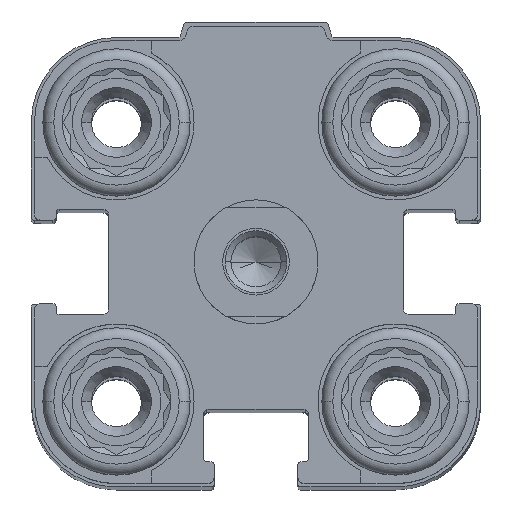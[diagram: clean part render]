
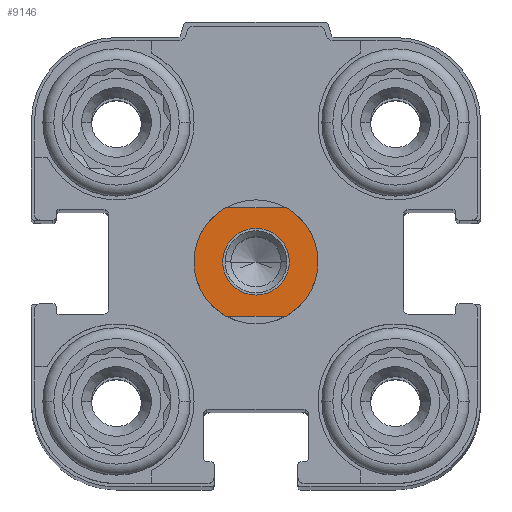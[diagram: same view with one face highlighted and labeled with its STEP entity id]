
A CAD part, top view. The second image highlights one B-rep face of the part: STEP entity #9146.
In plain terms, the highlighted planar face has unit normal (0, 0, 1).
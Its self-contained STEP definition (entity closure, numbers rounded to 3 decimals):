
#41 = EDGE_LOOP ( 'NONE', ( #4532, #4203, #16262, #17605, #2884, #17214 ) ) ;
#286 = CARTESIAN_POINT ( 'NONE',  ( 2.15, 0., 4.5 ) ) ;
#348 = CIRCLE ( 'NONE', #2921, 2.15 ) ;
#427 = DIRECTION ( 'NONE',  ( 0., 0., -1. ) ) ;
#739 = VERTEX_POINT ( 'NONE', #13697 ) ;
#856 = VERTEX_POINT ( 'NONE', #12861 ) ;
#1516 = DIRECTION ( 'NONE',  ( 0., 0., -1. ) ) ;
#1634 = ORIENTED_EDGE ( 'NONE', *, *, #10304, .T. ) ;
#1636 = CIRCLE ( 'NONE', #7962, 4. ) ;
#1939 = CARTESIAN_POINT ( 'NONE',  ( 0., 0., 4.5 ) ) ;
#2048 = LINE ( 'NONE', #6385, #3785 ) ;
#2254 = LINE ( 'NONE', #7743, #7673 ) ;
#2561 = CARTESIAN_POINT ( 'NONE',  ( -1.936, 3.5, 4.5 ) ) ;
#2569 = CARTESIAN_POINT ( 'NONE',  ( 0., 0., 4.5 ) ) ;
#2580 = CARTESIAN_POINT ( 'NONE',  ( 0., 0., 4.5 ) ) ;
#2884 = ORIENTED_EDGE ( 'NONE', *, *, #16312, .F. ) ;
#2921 = AXIS2_PLACEMENT_3D ( 'NONE', #7081, #9860, #5479 ) ;
#3353 = DIRECTION ( 'NONE',  ( -1., 0., 0. ) ) ;
#3380 = VERTEX_POINT ( 'NONE', #6792 ) ;
#3785 = VECTOR ( 'NONE', #11859, 1000. ) ;
#4203 = ORIENTED_EDGE ( 'NONE', *, *, #8944, .F. ) ;
#4532 = ORIENTED_EDGE ( 'NONE', *, *, #17054, .F. ) ;
#4631 = AXIS2_PLACEMENT_3D ( 'NONE', #2580, #1516, #9505 ) ;
#4808 = CARTESIAN_POINT ( 'NONE',  ( 0., 0., 4.5 ) ) ;
#5246 = DIRECTION ( 'NONE',  ( -1., 0., 0. ) ) ;
#5479 = DIRECTION ( 'NONE',  ( -1., 0., 0. ) ) ;
#5892 = VERTEX_POINT ( 'NONE', #15000 ) ;
#5965 = DIRECTION ( 'NONE',  ( 1., 0., 0. ) ) ;
#6385 = CARTESIAN_POINT ( 'NONE',  ( 7., -3.5, 4.5 ) ) ;
#6544 = DIRECTION ( 'NONE',  ( 0., 0., -1. ) ) ;
#6792 = CARTESIAN_POINT ( 'NONE',  ( 1.936, -3.5, 4.5 ) ) ;
#6909 = CIRCLE ( 'NONE', #9766, 4. ) ;
#7081 = CARTESIAN_POINT ( 'NONE',  ( 0., 0., 4.5 ) ) ;
#7424 = DIRECTION ( 'NONE',  ( 0., 0., -1. ) ) ;
#7575 = VERTEX_POINT ( 'NONE', #2561 ) ;
#7673 = VECTOR ( 'NONE', #5965, 1000. ) ;
#7743 = CARTESIAN_POINT ( 'NONE',  ( -7., 3.5, 4.5 ) ) ;
#7907 = VERTEX_POINT ( 'NONE', #10183 ) ;
#7926 = CARTESIAN_POINT ( 'NONE',  ( 0., 0., 4.5 ) ) ;
#7962 = AXIS2_PLACEMENT_3D ( 'NONE', #2569, #6544, #17778 ) ;
#8769 = FACE_OUTER_BOUND ( 'NONE', #41, .T. ) ;
#8944 = EDGE_CURVE ( 'NONE', #739, #7575, #15536, .T. ) ;
#9146 = ADVANCED_FACE ( 'NONE', ( #8769, #16954 ), #14253, .F. ) ;
#9505 = DIRECTION ( 'NONE',  ( -1., 0., 0. ) ) ;
#9579 = ORIENTED_EDGE ( 'NONE', *, *, #11507, .T. ) ;
#9766 = AXIS2_PLACEMENT_3D ( 'NONE', #4808, #427, #3353 ) ;
#9860 = DIRECTION ( 'NONE',  ( 0., 0., -1. ) ) ;
#10127 = CARTESIAN_POINT ( 'NONE',  ( 0., 0., 4.5 ) ) ;
#10166 = AXIS2_PLACEMENT_3D ( 'NONE', #10127, #16706, #14259 ) ;
#10183 = CARTESIAN_POINT ( 'NONE',  ( 1.936, 3.5, 4.5 ) ) ;
#10304 = EDGE_CURVE ( 'NONE', #856, #11073, #16227, .T. ) ;
#10882 = VERTEX_POINT ( 'NONE', #11188 ) ;
#11073 = VERTEX_POINT ( 'NONE', #286 ) ;
#11188 = CARTESIAN_POINT ( 'NONE',  ( -1.936, -3.5, 4.5 ) ) ;
#11306 = EDGE_LOOP ( 'NONE', ( #1634, #9579 ) ) ;
#11507 = EDGE_CURVE ( 'NONE', #11073, #856, #348, .T. ) ;
#11859 = DIRECTION ( 'NONE',  ( -1., 0., 0. ) ) ;
#12284 = CIRCLE ( 'NONE', #17155, 4. ) ;
#12861 = CARTESIAN_POINT ( 'NONE',  ( -2.15, 0., 4.5 ) ) ;
#12896 = DIRECTION ( 'NONE',  ( 0., 1., 0. ) ) ;
#13143 = EDGE_CURVE ( 'NONE', #10882, #739, #6909, .T. ) ;
#13697 = CARTESIAN_POINT ( 'NONE',  ( -4., 0., 4.5 ) ) ;
#14197 = EDGE_CURVE ( 'NONE', #3380, #10882, #2048, .T. ) ;
#14253 = PLANE ( 'NONE',  #14680 ) ;
#14259 = DIRECTION ( 'NONE',  ( -1., 0., 0. ) ) ;
#14674 = DIRECTION ( 'NONE',  ( 0., 0., -1. ) ) ;
#14680 = AXIS2_PLACEMENT_3D ( 'NONE', #1939, #7424, #12896 ) ;
#15000 = CARTESIAN_POINT ( 'NONE',  ( 4., 0., 4.5 ) ) ;
#15536 = CIRCLE ( 'NONE', #4631, 4. ) ;
#16227 = CIRCLE ( 'NONE', #10166, 2.15 ) ;
#16262 = ORIENTED_EDGE ( 'NONE', *, *, #13143, .F. ) ;
#16312 = EDGE_CURVE ( 'NONE', #5892, #3380, #1636, .T. ) ;
#16706 = DIRECTION ( 'NONE',  ( 0., 0., -1. ) ) ;
#16954 = FACE_BOUND ( 'NONE', #11306, .T. ) ;
#17054 = EDGE_CURVE ( 'NONE', #7575, #7907, #2254, .T. ) ;
#17144 = EDGE_CURVE ( 'NONE', #7907, #5892, #12284, .T. ) ;
#17155 = AXIS2_PLACEMENT_3D ( 'NONE', #7926, #14674, #5246 ) ;
#17214 = ORIENTED_EDGE ( 'NONE', *, *, #17144, .F. ) ;
#17605 = ORIENTED_EDGE ( 'NONE', *, *, #14197, .F. ) ;
#17778 = DIRECTION ( 'NONE',  ( -1., 0., 0. ) ) ;
